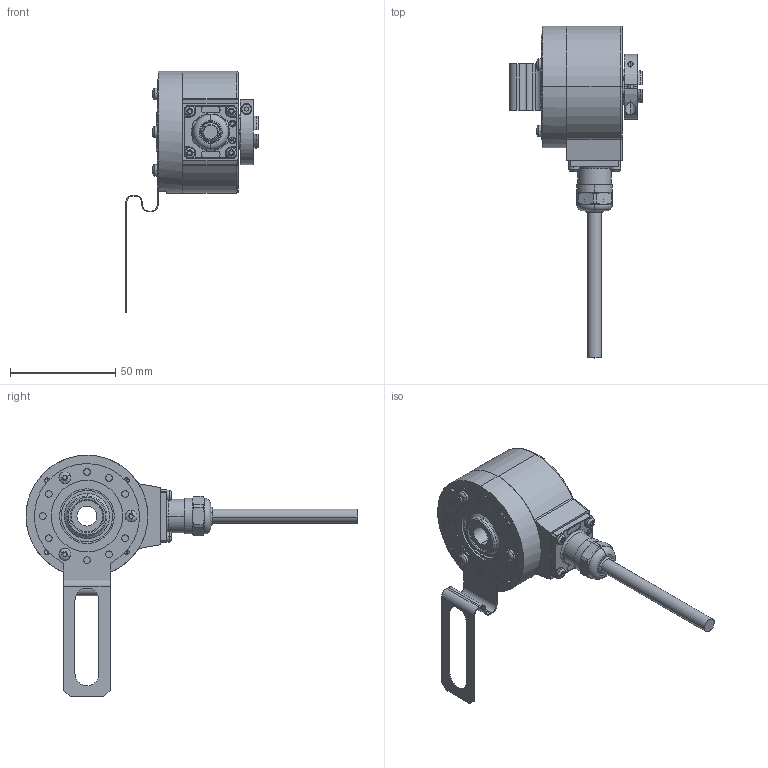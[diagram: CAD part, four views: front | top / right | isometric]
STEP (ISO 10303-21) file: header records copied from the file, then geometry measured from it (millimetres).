
FILE_DESCRIPTION (( 'STEP AP203' ), '1' );
FILE_NAME ('K58I.OXX.XXXXX.XC2452A.6XR11.XXXX.step', '2025-12-08T12:34:23', ( '' ), ( '' ), 'SwSTEP 2.0', 'SolidWorks 2021', '' );
FILE_SCHEMA (( 'CONFIG_CONTROL_DESIGN' ));
Length unit declared in the file: millimetre
Products named in the file (1): K58I.OXX.XXXXX.XC2452A.6XR11.XXXX
Bounding box: 62.99 x 158 x 115 mm (x, y, z)
Volume: 116586.5 mm3; surface area: 45957.5 mm2
Topology: 11 solids, 11 shells, 802 faces, 2047 edges, 1285 vertices
Faces by surface type: cylinder 387, plane 234, cone 77, bspline 46, torus 42, sphere 16
Entity records: 27598 total; most frequent: CARTESIAN_POINT 8149, DIRECTION 4133, ORIENTED_EDGE 4066, EDGE_CURVE 2033, AXIS2_PLACEMENT_3D 1617, VERTEX_POINT 1285, VECTOR 899, LINE 899
